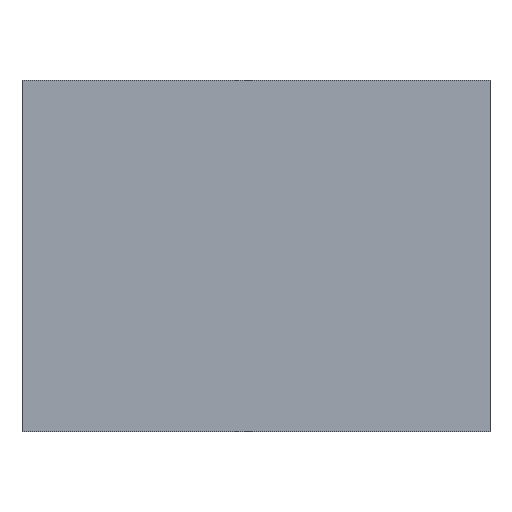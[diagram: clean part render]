
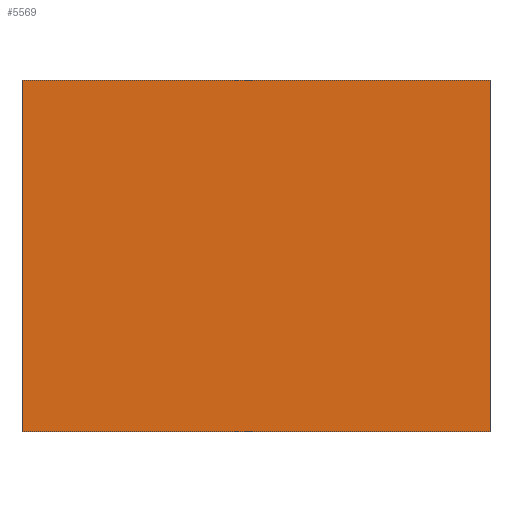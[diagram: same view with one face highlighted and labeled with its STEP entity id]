
A CAD part, front view. The second image highlights one B-rep face of the part: STEP entity #5569.
In plain terms, the highlighted planar face has unit normal (0, -1, 0).
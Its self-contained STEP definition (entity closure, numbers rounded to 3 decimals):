
#75 = EDGE_CURVE ( 'NONE', #4830, #3960, #7257, .T. ) ;
#108 = EDGE_CURVE ( 'NONE', #3410, #3960, #6852, .T. ) ;
#819 = EDGE_CURVE ( 'NONE', #1499, #3410, #2990, .T. ) ;
#859 = ORIENTED_EDGE ( 'NONE', *, *, #819, .F. ) ;
#1240 = VECTOR ( 'NONE', #5710, 1000. ) ;
#1256 = AXIS2_PLACEMENT_3D ( 'NONE', #2327, #2319, #2317 ) ;
#1323 = LINE ( 'NONE', #5724, #1240 ) ;
#1499 = VERTEX_POINT ( 'NONE', #4677 ) ;
#2317 = DIRECTION ( 'NONE',  ( 0., 0., 1. ) ) ;
#2319 = DIRECTION ( 'NONE',  ( 0., 1., 0. ) ) ;
#2327 = CARTESIAN_POINT ( 'NONE',  ( 60., -46.65, 22.5 ) ) ;
#2382 = PLANE ( 'NONE',  #1256 ) ;
#2458 = EDGE_LOOP ( 'NONE', ( #6980, #7051, #859, #4184 ) ) ;
#2780 = DIRECTION ( 'NONE',  ( 0., 0., -1. ) ) ;
#2990 = LINE ( 'NONE', #3118, #7304 ) ;
#3118 = CARTESIAN_POINT ( 'NONE',  ( 60., -46.65, 22.5 ) ) ;
#3410 = VERTEX_POINT ( 'NONE', #4156 ) ;
#3960 = VERTEX_POINT ( 'NONE', #6907 ) ;
#4156 = CARTESIAN_POINT ( 'NONE',  ( 60., -46.65, -22.5 ) ) ;
#4184 = ORIENTED_EDGE ( 'NONE', *, *, #7408, .T. ) ;
#4677 = CARTESIAN_POINT ( 'NONE',  ( 60., -46.65, 22.5 ) ) ;
#4830 = VERTEX_POINT ( 'NONE', #5104 ) ;
#5104 = CARTESIAN_POINT ( 'NONE',  ( 0., -46.65, 22.5 ) ) ;
#5490 = VECTOR ( 'NONE', #5884, 1000. ) ;
#5569 = ADVANCED_FACE ( 'NONE', ( #6183 ), #2382, .F. ) ;
#5710 = DIRECTION ( 'NONE',  ( -1., 0., 0. ) ) ;
#5724 = CARTESIAN_POINT ( 'NONE',  ( 60., -46.65, 22.5 ) ) ;
#5788 = CARTESIAN_POINT ( 'NONE',  ( 0., -46.65, 22.5 ) ) ;
#5884 = DIRECTION ( 'NONE',  ( 0., 0., -1. ) ) ;
#6183 = FACE_OUTER_BOUND ( 'NONE', #2458, .T. ) ;
#6852 = LINE ( 'NONE', #7430, #6860 ) ;
#6860 = VECTOR ( 'NONE', #7364, 1000. ) ;
#6907 = CARTESIAN_POINT ( 'NONE',  ( 0., -46.65, -22.5 ) ) ;
#6980 = ORIENTED_EDGE ( 'NONE', *, *, #75, .T. ) ;
#7051 = ORIENTED_EDGE ( 'NONE', *, *, #108, .F. ) ;
#7257 = LINE ( 'NONE', #5788, #5490 ) ;
#7304 = VECTOR ( 'NONE', #2780, 1000. ) ;
#7364 = DIRECTION ( 'NONE',  ( -1., 0., 0. ) ) ;
#7408 = EDGE_CURVE ( 'NONE', #1499, #4830, #1323, .T. ) ;
#7430 = CARTESIAN_POINT ( 'NONE',  ( 60., -46.65, -22.5 ) ) ;
